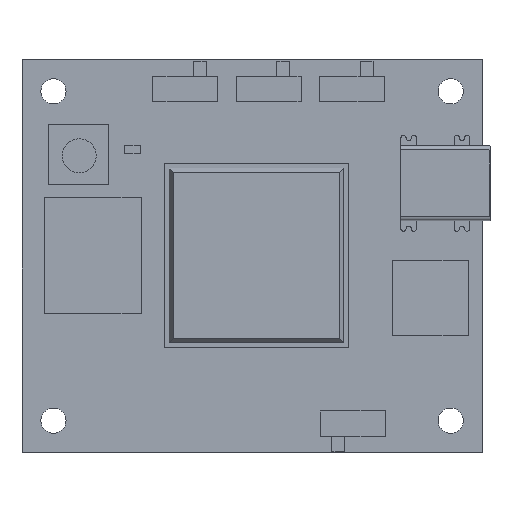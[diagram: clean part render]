
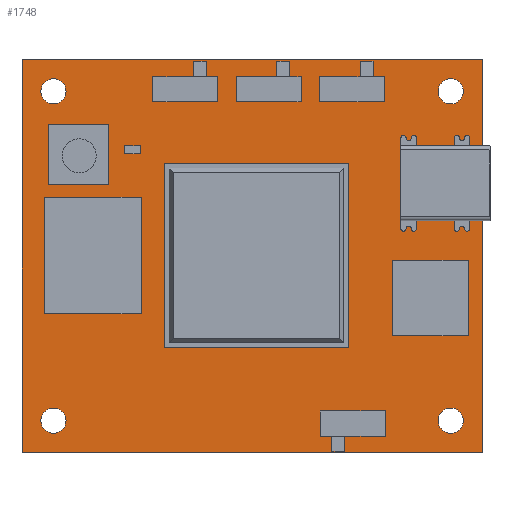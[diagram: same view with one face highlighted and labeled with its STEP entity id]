
A CAD part, top view. The second image highlights one B-rep face of the part: STEP entity #1748.
In plain terms, the highlighted planar face has unit normal (0, 0, 1).
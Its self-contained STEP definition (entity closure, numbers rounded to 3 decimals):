
#1311 = EDGE_CURVE ( 'NONE', #1399, #1400, #5634, .T. ) ;
#1334 = EDGE_CURVE ( 'NONE', #1335, #1336, #5673, .T. ) ;
#1335 = VERTEX_POINT ( 'NONE', #5654 ) ;
#1336 = VERTEX_POINT ( 'NONE', #5682 ) ;
#1386 = VERTEX_POINT ( 'NONE', #5750 ) ;
#1399 = VERTEX_POINT ( 'NONE', #5745 ) ;
#1400 = VERTEX_POINT ( 'NONE', #5744 ) ;
#1414 = VERTEX_POINT ( 'NONE', #5795 ) ;
#1528 = EDGE_CURVE ( 'NONE', #1386, #1414, #6055, .T. ) ;
#1539 = ORIENTED_EDGE ( 'NONE', *, *, #1855, .F. ) ;
#1548 = EDGE_CURVE ( 'NONE', #1549, #1550, #6081, .T. ) ;
#1549 = VERTEX_POINT ( 'NONE', #6086 ) ;
#1550 = VERTEX_POINT ( 'NONE', #6101 ) ;
#1598 = ORIENTED_EDGE ( 'NONE', *, *, #1630, .F. ) ;
#1613 = EDGE_CURVE ( 'NONE', #1414, #1386, #6166, .T. ) ;
#1614 = EDGE_CURVE ( 'NONE', #1638, #1728, #6203, .T. ) ;
#1615 = ORIENTED_EDGE ( 'NONE', *, *, #1528, .F. ) ;
#1630 = EDGE_CURVE ( 'NONE', #1336, #1335, #6197, .T. ) ;
#1638 = VERTEX_POINT ( 'NONE', #6169 ) ;
#1642 = ORIENTED_EDGE ( 'NONE', *, *, #1614, .T. ) ;
#1643 = ORIENTED_EDGE ( 'NONE', *, *, #1311, .F. ) ;
#1663 = EDGE_CURVE ( 'NONE', #1724, #1638, #6199, .T. ) ;
#1664 = EDGE_LOOP ( 'NONE', ( #1643, #1752 ) ) ;
#1681 = EDGE_LOOP ( 'NONE', ( #1720, #1598 ) ) ;
#1682 = ORIENTED_EDGE ( 'NONE', *, *, #1548, .F. ) ;
#1716 = EDGE_LOOP ( 'NONE', ( #1642, #1734, #1721, #1875 ) ) ;
#1718 = VERTEX_POINT ( 'NONE', #6195 ) ;
#1719 = EDGE_LOOP ( 'NONE', ( #1682, #1539 ) ) ;
#1720 = ORIENTED_EDGE ( 'NONE', *, *, #1334, .F. ) ;
#1721 = ORIENTED_EDGE ( 'NONE', *, *, #1746, .T. ) ;
#1722 = EDGE_LOOP ( 'NONE', ( #1615, #1744 ) ) ;
#1724 = VERTEX_POINT ( 'NONE', #6194 ) ;
#1728 = VERTEX_POINT ( 'NONE', #6215 ) ;
#1734 = ORIENTED_EDGE ( 'NONE', *, *, #1918, .T. ) ;
#1744 = ORIENTED_EDGE ( 'NONE', *, *, #1613, .F. ) ;
#1746 = EDGE_CURVE ( 'NONE', #1718, #1724, #6267, .T. ) ;
#1748 = ADVANCED_FACE ( 'NONE', ( #6240, #6239, #6275, #6274, #6273 ), #6266, .F. ) ;
#1752 = ORIENTED_EDGE ( 'NONE', *, *, #1926, .F. ) ;
#1855 = EDGE_CURVE ( 'NONE', #1550, #1549, #6531, .T. ) ;
#1875 = ORIENTED_EDGE ( 'NONE', *, *, #1663, .T. ) ;
#1918 = EDGE_CURVE ( 'NONE', #1728, #1718, #6552, .T. ) ;
#1926 = EDGE_CURVE ( 'NONE', #1400, #1399, #5972, .T. ) ;
#5630 = DIRECTION ( 'NONE',  ( 1., 0., 0. ) ) ;
#5631 = DIRECTION ( 'NONE',  ( 0., 0., 1. ) ) ;
#5632 = CARTESIAN_POINT ( 'NONE',  ( 44.25, 3.25, 1.6 ) ) ;
#5633 = AXIS2_PLACEMENT_3D ( 'NONE', #5632, #5631, #5630 ) ;
#5634 = CIRCLE ( 'NONE', #5633, 1.3 ) ;
#5652 = CARTESIAN_POINT ( 'NONE',  ( 44.25, 37.25, 1.6 ) ) ;
#5653 = AXIS2_PLACEMENT_3D ( 'NONE', #5652, #5668, #5667 ) ;
#5654 = CARTESIAN_POINT ( 'NONE',  ( 42.95, 37.25, 1.6 ) ) ;
#5667 = DIRECTION ( 'NONE',  ( 1., 0., 0. ) ) ;
#5668 = DIRECTION ( 'NONE',  ( 0., 0., 1. ) ) ;
#5673 = CIRCLE ( 'NONE', #5653, 1.3 ) ;
#5682 = CARTESIAN_POINT ( 'NONE',  ( 45.55, 37.25, 1.6 ) ) ;
#5744 = CARTESIAN_POINT ( 'NONE',  ( 45.55, 3.25, 1.6 ) ) ;
#5745 = CARTESIAN_POINT ( 'NONE',  ( 42.95, 3.25, 1.6 ) ) ;
#5750 = CARTESIAN_POINT ( 'NONE',  ( 1.95, 37.25, 1.6 ) ) ;
#5795 = CARTESIAN_POINT ( 'NONE',  ( 4.55, 37.25, 1.6 ) ) ;
#5947 = DIRECTION ( 'NONE',  ( 1., 0., 0. ) ) ;
#5948 = DIRECTION ( 'NONE',  ( 0., 0., 1. ) ) ;
#5952 = CARTESIAN_POINT ( 'NONE',  ( 44.25, 3.25, 1.6 ) ) ;
#5953 = AXIS2_PLACEMENT_3D ( 'NONE', #5952, #5948, #5947 ) ;
#5972 = CIRCLE ( 'NONE', #5953, 1.3 ) ;
#6052 = DIRECTION ( 'NONE',  ( 0., 0., 1. ) ) ;
#6053 = CARTESIAN_POINT ( 'NONE',  ( 3.25, 37.25, 1.6 ) ) ;
#6054 = AXIS2_PLACEMENT_3D ( 'NONE', #6053, #6052, #6058 ) ;
#6055 = CIRCLE ( 'NONE', #6054, 1.3 ) ;
#6058 = DIRECTION ( 'NONE',  ( 1., 0., 0. ) ) ;
#6081 = CIRCLE ( 'NONE', #6085, 1.3 ) ;
#6082 = DIRECTION ( 'NONE',  ( 1., 0., 0. ) ) ;
#6083 = DIRECTION ( 'NONE',  ( 0., 0., 1. ) ) ;
#6084 = CARTESIAN_POINT ( 'NONE',  ( 3.25, 3.25, 1.6 ) ) ;
#6085 = AXIS2_PLACEMENT_3D ( 'NONE', #6084, #6083, #6082 ) ;
#6086 = CARTESIAN_POINT ( 'NONE',  ( 1.95, 3.25, 1.6 ) ) ;
#6101 = CARTESIAN_POINT ( 'NONE',  ( 4.55, 3.25, 1.6 ) ) ;
#6166 = CIRCLE ( 'NONE', #6214, 1.3 ) ;
#6169 = CARTESIAN_POINT ( 'NONE',  ( 0., 40.5, 1.6 ) ) ;
#6179 = DIRECTION ( 'NONE',  ( 0., -1., 0. ) ) ;
#6183 = DIRECTION ( 'NONE',  ( 1., 0., 0. ) ) ;
#6185 = DIRECTION ( 'NONE',  ( -1., 0., 0. ) ) ;
#6186 = VECTOR ( 'NONE', #6185, 1000. ) ;
#6187 = CARTESIAN_POINT ( 'NONE',  ( 0., 40.5, 1.6 ) ) ;
#6192 = DIRECTION ( 'NONE',  ( 0., 0., 1. ) ) ;
#6193 = VECTOR ( 'NONE', #6179, 1000. ) ;
#6194 = CARTESIAN_POINT ( 'NONE',  ( 47.5, 40.5, 1.6 ) ) ;
#6195 = CARTESIAN_POINT ( 'NONE',  ( 47.5, 0., 1.6 ) ) ;
#6196 = CARTESIAN_POINT ( 'NONE',  ( 3.25, 37.25, 1.6 ) ) ;
#6197 = CIRCLE ( 'NONE', #6200, 1.3 ) ;
#6199 = LINE ( 'NONE', #6187, #6186 ) ;
#6200 = AXIS2_PLACEMENT_3D ( 'NONE', #6202, #6201, #6210 ) ;
#6201 = DIRECTION ( 'NONE',  ( 0., 0., 1. ) ) ;
#6202 = CARTESIAN_POINT ( 'NONE',  ( 44.25, 37.25, 1.6 ) ) ;
#6203 = LINE ( 'NONE', #6213, #6193 ) ;
#6210 = DIRECTION ( 'NONE',  ( 1., 0., 0. ) ) ;
#6213 = CARTESIAN_POINT ( 'NONE',  ( 0., 0., 1.6 ) ) ;
#6214 = AXIS2_PLACEMENT_3D ( 'NONE', #6196, #6192, #6183 ) ;
#6215 = CARTESIAN_POINT ( 'NONE',  ( 0., 0., 1.6 ) ) ;
#6216 = DIRECTION ( 'NONE',  ( 0., 1., 0. ) ) ;
#6223 = CARTESIAN_POINT ( 'NONE',  ( 47.5, 0., 1.6 ) ) ;
#6239 = FACE_BOUND ( 'NONE', #1719, .T. ) ;
#6240 = FACE_BOUND ( 'NONE', #1681, .T. ) ;
#6245 = DIRECTION ( 'NONE',  ( -1., 0., 0. ) ) ;
#6257 = VECTOR ( 'NONE', #6216, 1000. ) ;
#6258 = AXIS2_PLACEMENT_3D ( 'NONE', #6269, #6268, #6245 ) ;
#6266 = PLANE ( 'NONE',  #6258 ) ;
#6267 = LINE ( 'NONE', #6223, #6257 ) ;
#6268 = DIRECTION ( 'NONE',  ( 0., 0., -1. ) ) ;
#6269 = CARTESIAN_POINT ( 'NONE',  ( 0., 40.5, 1.6 ) ) ;
#6273 = FACE_BOUND ( 'NONE', #1664, .T. ) ;
#6274 = FACE_BOUND ( 'NONE', #1722, .T. ) ;
#6275 = FACE_OUTER_BOUND ( 'NONE', #1716, .T. ) ;
#6503 = DIRECTION ( 'NONE',  ( 1., 0., 0. ) ) ;
#6504 = DIRECTION ( 'NONE',  ( 0., 0., 1. ) ) ;
#6511 = CARTESIAN_POINT ( 'NONE',  ( 3.25, 3.25, 1.6 ) ) ;
#6530 = AXIS2_PLACEMENT_3D ( 'NONE', #6511, #6504, #6503 ) ;
#6531 = CIRCLE ( 'NONE', #6530, 1.3 ) ;
#6549 = DIRECTION ( 'NONE',  ( 1., 0., 0. ) ) ;
#6550 = VECTOR ( 'NONE', #6549, 1000. ) ;
#6551 = CARTESIAN_POINT ( 'NONE',  ( 0., 0., 1.6 ) ) ;
#6552 = LINE ( 'NONE', #6551, #6550 ) ;
